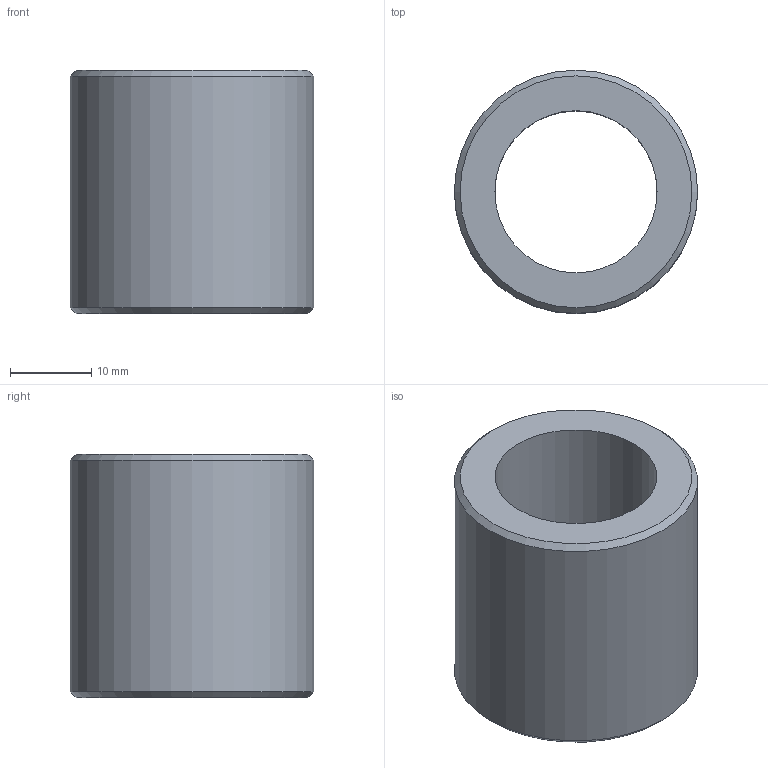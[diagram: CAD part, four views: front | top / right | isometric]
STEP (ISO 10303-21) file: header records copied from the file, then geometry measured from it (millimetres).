
FILE_DESCRIPTION(('STEP AP203'),'1');
FILE_NAME('//192.168.1.1/share/s-4 技術開発/s-4-4_CAD/s-4-4-3_見直し済み/007 修正済み/DB/DB_TOP/DB-20.step','2022-02-08T07:28:44',(' '),(' '),'Spatial InterOp 3D',' ',' ');
FILE_SCHEMA(('CONFIG_CONTROL_DESIGN'));
Length unit declared in the file: millimetre
Products named in the file (1): 1
Bounding box: 30 x 30 x 30 mm (x, y, z)
Volume: 11735.5 mm3; surface area: 5419.2 mm2
Topology: 1 solids, 1 shells, 6 faces, 10 edges, 6 vertices
Faces by surface type: plane 2, cylinder 2, cone 2
Full cylindrical faces by diameter (mm): 20 x1, 30 x1
Entity records: 172 total; most frequent: DIRECTION 26, CARTESIAN_POINT 19, AXIS2_PLACEMENT_3D 13, EDGE_LOOP 12, ORIENTED_EDGE 12, FACE_OUTER_BOUND 8, ADVANCED_FACE 6, EDGE_CURVE 6
